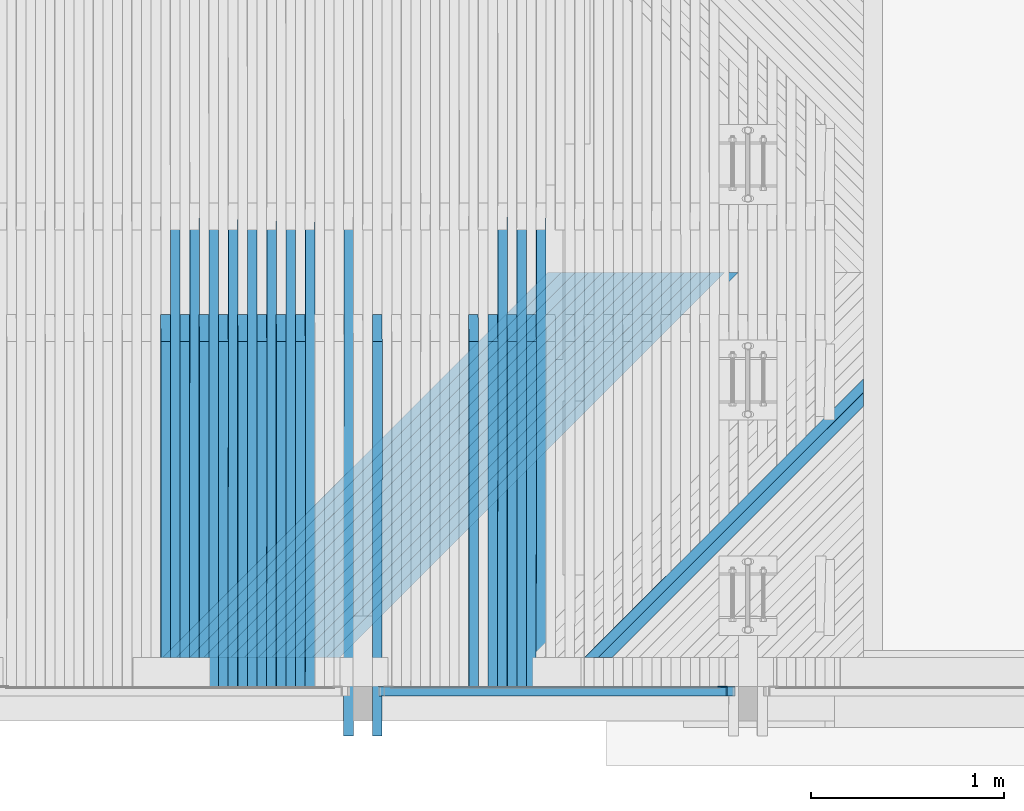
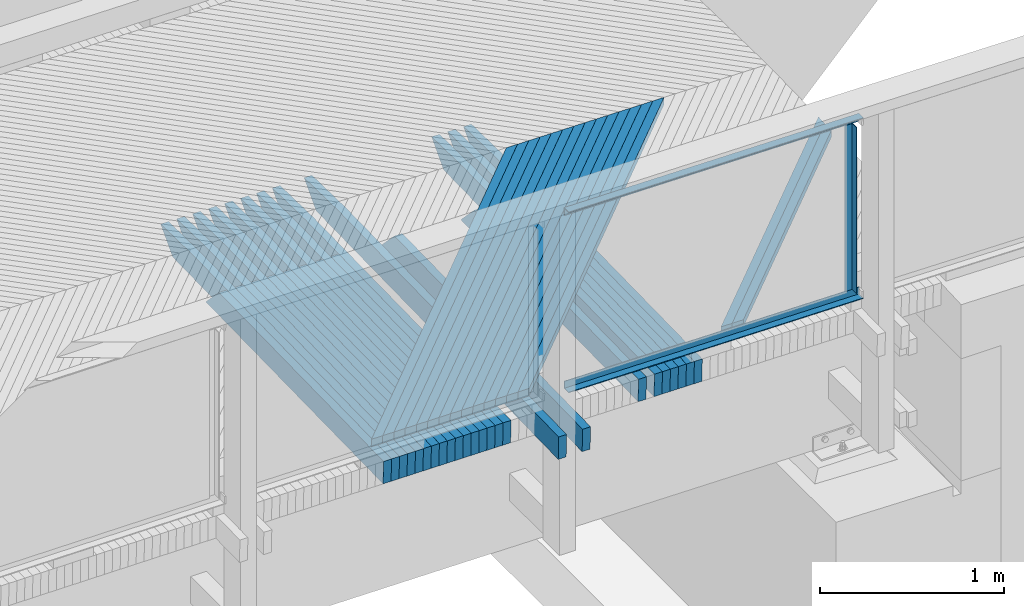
# One storey, part 41 of 65: 44 beams.
"""IFC2X3 building model written with IfcOpenShell, lengths in millimetres."""

import ifcopenshell
import ifcopenshell.guid

model = None  # the IFC model being written
_history = None  # IfcOwnerHistory: only IFC2X3 demands one
_inside = {}  # id of a spatial element -> (the spatial element, [elements in it])
_under = {}  # id of a project, library or spatial element -> (it, [spatial elements below it])
_declared = {}  # id of a project -> (the project, [libraries it declares])
_typed = {}  # id of a type object -> (the type object, [elements of that type])
_made_of = {}  # id of a material, layer set ... -> (it, [elements and type objects made of it])


def new_model(schema):
    """Start an empty IFC model of exactly this schema.

    Asked for "IFC4X3", IfcOpenShell would pick the latest addendum, in which some entities
    have other attributes; the version numbers below select the first issue.
    IFC2X3 requires an IfcOwnerHistory on every rooted entity: one is made here for all.
    """
    global model, _history
    if schema == "IFC4X3":
        model = ifcopenshell.file(schema_version=(4, 3, 0, 0))
    else:
        model = ifcopenshell.file(schema=schema)
    _inside.clear()
    _under.clear()
    _declared.clear()
    _typed.clear()
    _made_of.clear()
    _history = None
    if model.schema == "IFC2X3":
        org = make("IfcOrganization", Name="unknown")
        user = make(
            "IfcPersonAndOrganization",
            ThePerson=make("IfcPerson", FamilyName="unknown"),
            TheOrganization=org,
        )
        app = make(
            "IfcApplication",
            ApplicationDeveloper=org,
            Version="unknown",
            ApplicationFullName="unknown",
            ApplicationIdentifier="unknown",
        )
        _history = make(
            "IfcOwnerHistory",
            OwningUser=user,
            OwningApplication=app,
            ChangeAction="ADDED",
            CreationDate=0,
        )
    return model


def make(cls, **values):
    """One entity of the class cls with the attributes given. An attribute that is None is left unset."""
    return model.create_entity(
        cls, **{name: value for name, value in values.items() if value is not None}
    )


def rooted(cls, **values):
    """An entity with a GlobalId (a new one), such as an element, a storey or a relation."""
    return make(cls, GlobalId=ifcopenshell.guid.new(), OwnerHistory=_history, **values)


def si_unit(unit_type, name, prefix=None):
    """IfcSIUnit, for example si_unit("LENGTHUNIT", "METRE", prefix="MILLI")."""
    return make("IfcSIUnit", UnitType=unit_type, Prefix=prefix, Name=name)


def assignment(units):
    """IfcUnitAssignment: the units of a project."""
    return None if units is None else make("IfcUnitAssignment", Units=units)


def point(xyz):
    """IfcCartesianPoint."""
    return None if xyz is None else make("IfcCartesianPoint", Coordinates=xyz)


def direction(xyz):
    """IfcDirection."""
    return None if xyz is None else make("IfcDirection", DirectionRatios=xyz)


def frame(location, z_axis=None, x_axis=None):
    """IfcAxis2Placement3D, a coordinate frame: its origin and axes. An axis left out is left unset."""
    return make(
        "IfcAxis2Placement3D",
        Location=point(location),
        Axis=direction(z_axis),
        RefDirection=direction(x_axis),
    )


def origin_with_axes():
    """The frame at (0, 0, 0) with the z axis (0, 0, 1) and the x axis (1, 0, 0) written out."""
    return frame((0.0, 0.0, 0.0), z_axis=(0.0, 0.0, 1.0), x_axis=(1.0, 0.0, 0.0))


def place(relative_to, where):
    """IfcLocalPlacement: puts the frame where relative to a parent placement (None: the world)."""
    return make(
        "IfcLocalPlacement", PlacementRelTo=relative_to, RelativePlacement=where
    )


def context(
    kind, dimensions, precision=None, world=None, true_north=None, identifier=None
):
    """IfcGeometricRepresentationContext, for example the 3D "Model" context."""
    return make(
        "IfcGeometricRepresentationContext",
        ContextIdentifier=identifier,
        ContextType=kind,
        CoordinateSpaceDimension=dimensions,
        Precision=precision,
        WorldCoordinateSystem=world,
        TrueNorth=true_north,
    )


def subcontext(parent, identifier, kind, view, scale=None):
    """IfcGeometricRepresentationSubContext, for example "Body" below "Model"."""
    return make(
        "IfcGeometricRepresentationSubContext",
        ContextIdentifier=identifier,
        ContextType=kind,
        ParentContext=parent,
        TargetScale=scale,
        TargetView=view,
    )


def project(units=None, contexts=None):
    """IfcProject with its units and contexts."""
    return rooted(
        "IfcProject",
        Name="project",
        RepresentationContexts=contexts,
        UnitsInContext=assignment(units),
    )


def spatial(cls, under=None, at=None, **own):
    """A site, building, storey or space (cls), placed at a placement, below another one or the project."""
    s = rooted(cls, ObjectPlacement=at, **own)
    if under is not None:
        _under.setdefault(under.id(), (under, []))[1].append(s)
    return s


def faces_of(points, faces, orient=None, outer=None):
    """IfcFace entities. A face is a list of loops; a loop is a list of indices into points, from 0.

    orient and outer hold one flag for each loop. By default every Orientation is true, the
    first loop of a face is its IfcFaceOuterBound and the others are IfcFaceBound.
    """
    made = []
    for i, loops in enumerate(faces):
        bounds = []
        for j, loop in enumerate(loops):
            is_outer = j == 0 if outer is None else outer[i][j]
            bounds.append(
                make(
                    "IfcFaceOuterBound" if is_outer else "IfcFaceBound",
                    Bound=make("IfcPolyLoop", Polygon=[points[k] for k in loop]),
                    Orientation=True if orient is None else orient[i][j],
                )
            )
        made.append(make("IfcFace", Bounds=bounds))
    return made


def faceted_brep(points, faces, orient=None, outer=None, voids=None):
    """IfcFacetedBrep: a solid bounded by flat faces; with voids (closed shells), ...WithVoids."""
    shared = [point(p) for p in points]
    hull = make("IfcClosedShell", CfsFaces=faces_of(shared, faces, orient, outer))
    if voids is None:
        return make("IfcFacetedBrep", Outer=hull)
    return make(
        "IfcFacetedBrepWithVoids",
        Outer=hull,
        Voids=[
            make(cls, CfsFaces=faces_of(shared, fs, o, b)) for cls, fs, o, b in voids
        ],
    )


def shape(context_of_items, identifier, shape_type, items):
    """IfcShapeRepresentation: the items that make up one representation, for example the "Body"."""
    return make(
        "IfcShapeRepresentation",
        ContextOfItems=context_of_items,
        RepresentationIdentifier=identifier,
        RepresentationType=shape_type,
        Items=items,
    )


def material(Name=None, Category=None):
    """IfcMaterial."""
    return make("IfcMaterial", Name=Name, Category=Category)


def made_of(thing, what):
    """Note that an element or type object is made of a material, layer set ...; save() writes the relation."""
    if what is not None:
        _made_of.setdefault(what.id(), (what, []))[1].append(thing)
    return thing


def type_object(cls, material=None, **own):
    """A type object (cls), such as IfcWallType, which elements share."""
    return made_of(rooted(cls, **own), material)


def element(
    cls,
    number,
    at=None,
    inside=None,
    cuts=None,
    type_object=None,
    material=None,
    context=None,
    identifier="Body",
    shape_type=None,
    held_by="IfcProductDefinitionShape",
    body=None,
    shapes=None,
    **own,
):
    """One element of the class cls, such as IfcWall. Its Tag is "e" and its number.

    at: its placement. inside: the storey or other place that contains it. cuts: it is an
    opening in that element (IfcRelVoidsElement). A single representation is given by context,
    identifier, shape_type and body (its items); several are given by shapes. held_by: the class
    of the entity that holds the representations. save() writes the other relations.
    """
    e = rooted(cls, Tag="e%d" % number, ObjectPlacement=at, **own)
    if body is not None:
        shapes = [shape(context, identifier, shape_type, body)]
    if shapes is not None:
        e.Representation = make(held_by, Representations=shapes)
    if inside is not None:
        _inside.setdefault(inside.id(), (inside, []))[1].append(e)
    if cuts is not None:
        rooted(
            "IfcRelVoidsElement", RelatingBuildingElement=cuts, RelatedOpeningElement=e
        )
    if type_object is not None:
        _typed.setdefault(type_object.id(), (type_object, []))[1].append(e)
    return made_of(e, material)


def aggregate(whole, parts):
    """IfcRelAggregates: a whole, such as a stair, and the parts it consists of."""
    return rooted("IfcRelAggregates", RelatingObject=whole, RelatedObjects=parts)


def save(model, path):
    """Write the relations noted so far, then the file.

    IfcRelAggregates (storeys below a building ...), IfcRelContainedInSpatialStructure (elements
    in a storey), IfcRelDefinesByType, IfcRelAssociatesMaterial and IfcRelDeclares: one each for
    every whole, place, type object, material and project.
    """
    for whole, parts in _under.values():
        aggregate(whole, parts)
    for where, things in _inside.values():
        rooted(
            "IfcRelContainedInSpatialStructure",
            RelatedElements=things,
            RelatingStructure=where,
        )
    for kind, things in _typed.values():
        rooted("IfcRelDefinesByType", RelatedObjects=things, RelatingType=kind)
    for what, things in _made_of.values():
        rooted("IfcRelAssociatesMaterial", RelatedObjects=things, RelatingMaterial=what)
    for by, libraries in _declared.values():
        rooted("IfcRelDeclares", RelatingContext=by, RelatedDefinitions=libraries)
    model.write(path)


model = new_model("IFC2X3")

# Units and contexts
model_context = context("Model", 3, precision=1e-05, world=origin_with_axes())
body_context = subcontext(model_context, "Body", "Model", "MODEL_VIEW")
ifc_project = project(units=[si_unit("LENGTHUNIT", "METRE", prefix="MILLI"), si_unit("AREAUNIT", "SQUARE_METRE"), si_unit("VOLUMEUNIT", "CUBIC_METRE"), si_unit("MASSUNIT", "GRAM", prefix="KILO"), si_unit("TIMEUNIT", "SECOND"), si_unit("PLANEANGLEUNIT", "RADIAN"), si_unit("SOLIDANGLEUNIT", "STERADIAN"), si_unit("THERMODYNAMICTEMPERATUREUNIT", "DEGREE_CELSIUS"), si_unit("LUMINOUSINTENSITYUNIT", "LUMEN")], contexts=[model_context])

# Site, building, storey
site_placement = place(None, origin_with_axes())
site = spatial("IfcSite", under=ifc_project, at=site_placement, Name="Undefined", CompositionType="ELEMENT")
building_placement = place(site_placement, origin_with_axes())
building = spatial("IfcBuilding", under=site, at=building_placement, Name="Undefined", CompositionType="ELEMENT")
storey_placement = place(building_placement, origin_with_axes())
storey = spatial("IfcBuildingStorey", under=building, at=storey_placement, Name="Undefined", CompositionType="ELEMENT", Elevation=0.0)

# Beams
ifc_material_1 = material(Name="STEEL/S235JR")
beam_type_1 = type_object("IfcBeamType", Name="L50*5", PredefinedType="NOTDEFINED")
beam_1_placement = place(storey_placement, frame((15867.5024948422, 20190.01, 4364.61246804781), z_axis=(0.0, -1.0, 0.0), x_axis=(0.0, 0.0, -1.0)))
element("IfcBeam", 1, at=beam_1_placement, inside=storey, type_object=beam_type_1, material=ifc_material_1, Name="BEAM", ObjectType="L50*5", context=body_context, shape_type="Brep", body=[
    faceted_brep([(0.0, 25.0, -25.0), (0.0, 25.0, 25.0), (1099.99156352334, 25.0, 25.0), (1099.99156352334, 25.0, -25.0), (0.0, 20.0, 25.0), (1099.99156352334, 20.0, 25.0), (0.0, 20.0, -20.0), (1099.99156352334, 20.0, -20.0), (0.0, -25.0, -20.0), (1099.99156352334, -25.0, -20.0), (0.0, -25.0, -25.0), (1099.99156352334, -25.0, -25.0)], [[[0, 1, 2, 3]], [[1, 4, 5, 2]], [[4, 6, 7, 5]], [[6, 8, 9, 7]], [[8, 10, 11, 9]], [[10, 0, 3, 11]], [[5, 7, 9, 11, 3, 2]], [[10, 8, 6, 4, 1, 0]]]),
])
for number, where, z_axis, x_axis, name in (
    (2, (15932.2888724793, 20190.0100000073, 3239.15826347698), (0.0, -1.0, 0.0), (-0.999932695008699, 0.0, 0.0116019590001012), "BEAM"),
    (3, (14082.7114455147, 20190.0099999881, 4410.61201255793), (0.0, -1.0, 0.0), (0.999932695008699, 0.0, -0.011601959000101), "BEAM"),
):
    element("IfcBeam", number, at=place(storey_placement, frame(where, z_axis=z_axis, x_axis=x_axis)), inside=storey, type_object=beam_type_1, material=ifc_material_1, Name=name, ObjectType="L50*5", context=body_context, shape_type="Brep", body=[
        faceted_brep([(0.0, 25.0, -25.0), (0.0, 25.0, 25.0), (1849.12178416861, 25.0, 25.0), (1849.12178416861, 25.0, -25.0), (0.0, 20.0, 25.0), (1849.1217841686, 20.0, 25.0), (0.0, 20.0, -20.0), (1849.1217841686, 20.0, -20.0), (0.0, -25.0, -20.0), (1849.1217841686, -25.0, -20.0), (0.0, -25.0, -25.0), (1849.1217841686, -25.0, -25.0)], [[[0, 1, 2, 3]], [[1, 4, 5, 2]], [[4, 6, 7, 5]], [[6, 8, 9, 7]], [[8, 10, 11, 9]], [[10, 0, 3, 11]], [[5, 7, 9, 11, 3, 2]], [[10, 8, 6, 4, 1, 0]]]),
    ])
ifc_material_2 = material(Name="TIMBER/Timber_Undefined")
beam_type_2 = type_object("IfcBeamType", Name="50*50", PredefinedType="NOTDEFINED")
beam_2_placement = place(storey_placement, frame((17258.8677408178, 22364.5001003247, 3164.92933385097), z_axis=(0.706832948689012, -0.706981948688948, -0.0237425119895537), x_axis=(-0.707250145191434, -0.706948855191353, -0.00453302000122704)))
element("IfcBeam", 4, at=beam_2_placement, inside=storey, type_object=beam_type_2, material=ifc_material_2, Name="BEAM", ObjectType="50*50", context=body_context, shape_type="Brep", body=[
    faceted_brep([(2802.92643296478, -25.0, 25.0000000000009), (2852.92877373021, -25.0000000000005, -24.9999999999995), (2854.34301907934, 24.9999999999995, -25.0), (2804.3406783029, 25.0, 25.0000000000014), (906.12553705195, 25.0, -24.9999999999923), (956.096042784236, 25.0, 25.0000000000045), (957.056097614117, -24.9999999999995, 25.0000000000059), (907.085591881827, -24.9999999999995, -24.9999999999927)], [[[0, 1, 2, 3]], [[3, 2, 4, 5]], [[0, 3, 5, 6]], [[1, 0, 6, 7]], [[2, 1, 7, 4]], [[6, 5, 4, 7]]]),
])
beam_3_placement = place(storey_placement, frame((17188.1518059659, 22364.5001003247, 3166.01273338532), z_axis=(0.706835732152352, -0.706981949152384, -0.0236594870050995), x_axis=(-0.707249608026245, -0.706948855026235, -0.00461609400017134)))
element("IfcBeam", 5, at=beam_3_placement, inside=storey, type_object=beam_type_2, material=ifc_material_2, Name="BEAM", ObjectType="50*50", context=body_context, shape_type="Brep", body=[
    faceted_brep([(2802.92643296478, -25.0, 25.0000000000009), (2852.92877373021, -25.0000000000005, -24.9999999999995), (2854.34301907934, 24.9999999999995, -25.0), (2804.3406783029, 25.0, 25.0000000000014), (806.143039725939, 24.9999999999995, -24.9999999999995), (856.1137801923, 24.9999999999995, 25.0), (857.065534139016, -25.0, 25.0), (807.094793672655, -25.0, -25.0)], [[[0, 1, 2, 3]], [[3, 2, 4, 5]], [[0, 3, 5, 6]], [[1, 0, 6, 7]], [[2, 1, 7, 4]], [[6, 5, 4, 7]]]),
])
for number, where, z_axis, x_axis, name in (
    (6, (15915.2442465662, 22364.5001003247, 3184.09352561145), (0.706884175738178, -0.706981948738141, -0.0221649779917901), (-0.707238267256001, -0.706948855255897, -0.00611141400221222), "BEAM"),
    (7, (15844.5260699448, 22364.5001003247, 3185.01910211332), (0.706886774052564, -0.706981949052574, -0.0220819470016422), (-0.707237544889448, -0.706948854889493, -0.00619448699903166), "BEAM"),
    (8, (15773.8077850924, 22364.5001003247, 3185.93637200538), (0.706889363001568, -0.70698194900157, -0.021998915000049), (-0.707236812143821, -0.706948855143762, -0.00627756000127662), "BEAM"),
    (9, (15703.0893929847, 22364.5001003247, 3186.8453352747), (0.70689194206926, -0.706981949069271, -0.0219158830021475), (-0.707236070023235, -0.706948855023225, -0.00636063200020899), "BEAM"),
    (10, (15632.3708945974, 22364.5001003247, 3187.74599190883), (0.706894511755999, -0.706981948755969, -0.021832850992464), (-0.707235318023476, -0.706948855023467, -0.00644370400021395), "BEAM"),
    (11, (15561.6522909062, 22364.5001003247, 3188.6383418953), (0.706897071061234, -0.706981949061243, -0.0217498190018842), (-0.707234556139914, -0.706948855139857, -0.00652677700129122), "BEAM"),
    (12, (15490.9335828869, 22364.5001003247, 3189.52238522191), (0.706899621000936, -0.706981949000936, -0.0216667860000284), (-0.707233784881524, -0.706948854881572, -0.00660984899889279), "BEAM"),
    (13, (15420.2147715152, 22364.5001003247, 3190.39812187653), (0.706902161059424, -0.706981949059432, -0.0215837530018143), (-0.707233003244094, -0.706948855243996, -0.00669292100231), "BEAM"),
    (14, (15349.4958577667, 22364.5001003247, 3191.26555184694), (0.706904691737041, -0.706981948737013, -0.021500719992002), (-0.707232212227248, -0.706948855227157, -0.00677599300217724), "BEAM"),
    (15, (15278.7768426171, 22364.5001003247, 3192.12467512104), (0.706907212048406, -0.706981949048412, -0.0214176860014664), (-0.707231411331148, -0.706948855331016, -0.0068590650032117), "BEAM"),
    (16, (15208.0577270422, 22364.5001003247, 3192.97549168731), (0.706909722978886, -0.706981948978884, -0.0213346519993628), (-0.707230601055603, -0.706948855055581, -0.00694213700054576), "BEAM"),
    (17, (15137.3385120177, 22364.5001003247, 3193.81800153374), (0.706912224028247, -0.706981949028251, -0.021251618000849), (-0.70722978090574, -0.706948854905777, -0.00702520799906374), "BEAM"),
    (18, (15066.6191985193, 22364.5001003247, 3194.65220464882), (0.706914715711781, -0.706981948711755, -0.0211685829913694), (-0.707228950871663, -0.706948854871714, -0.00710827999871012), "BEAM"),
    (19, (14995.8997875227, 22364.5001003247, 3195.47810102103), (0.706917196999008, -0.706981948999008, -0.0210855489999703), (-0.707228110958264, -0.706948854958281, -0.00719135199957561), "BEAM"),
):
    element("IfcBeam", number, at=place(storey_placement, frame(where, z_axis=z_axis, x_axis=x_axis)), inside=storey, type_object=beam_type_2, material=ifc_material_2, Name=name, ObjectType="50*50", context=body_context, shape_type="Brep", body=[
        faceted_brep([(24.8942457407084, 25.0000000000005, -25.0000000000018), (-25.0086637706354, 24.9999999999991, 25.0), (2804.3406783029, 25.0, 25.0000000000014), (2854.34301907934, 24.9999999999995, -25.0), (-26.4222658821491, -25.0000000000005, 25.0), (2802.92643296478, -25.0, 25.0000000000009), (23.4806436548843, -24.9999999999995, -25.0000000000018), (2852.92877373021, -25.0000000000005, -24.9999999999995)], [[[0, 1, 2, 3]], [[1, 4, 5, 2]], [[4, 6, 7, 5]], [[6, 0, 3, 7]], [[5, 7, 3, 2]], [[6, 4, 1, 0]]]),
    ])
beam_type_3 = type_object("IfcBeamType", Name="150*50", PredefinedType="NOTDEFINED")
beam_4_placement = place(storey_placement, frame((14874.6038632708, 20216.5046076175, 3053.88204159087), z_axis=(0.0113405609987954, -0.0199960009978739, 0.999735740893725), x_axis=(0.000226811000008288, 0.999800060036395, 0.0199947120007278)))
element("IfcBeam", 20, at=beam_4_placement, inside=storey, type_object=beam_type_3, material=ifc_material_2, Name="BEAM", ObjectType="150*50", context=body_context, shape_type="Brep", body=[
    faceted_brep([(-1.6778358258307e-07, -24.9999999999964, -74.9999999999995), (1.67790858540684e-07, -24.9999999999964, 75.0000000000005), (1.67790858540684e-07, 25.0000000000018, 74.9999999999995), (-1.6778358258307e-07, 25.0000000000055, -75.0), (1789.96936433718, -25.0000000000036, 74.9999999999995), (1789.96936408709, 24.9999999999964, 75.0), (1928.42646328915, 24.9999999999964, -75.0), (1928.42646353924, -25.0, -75.0000000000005)], [[[0, 1, 2, 3]], [[2, 1, 4, 5]], [[3, 2, 5, 6]], [[0, 3, 6, 7]], [[1, 0, 7, 4]], [[6, 5, 4, 7]]]),
])
beam_5_placement = place(storey_placement, frame((14924.6205833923, 20216.5046076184, 3053.30636416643), z_axis=(0.0115066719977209, -0.0199960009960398, 0.999733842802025), x_axis=(0.00023013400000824, 0.999800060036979, 0.0199946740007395)))
element("IfcBeam", 21, at=beam_5_placement, inside=storey, type_object=beam_type_3, material=ifc_material_2, Name="BEAM", ObjectType="150*50", context=body_context, shape_type="Brep", body=[
    faceted_brep([(-1.6778358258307e-07, -24.9999999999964, -74.9999999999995), (1.67790858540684e-07, -24.9999999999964, 75.0000000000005), (1.67790858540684e-07, 25.0000000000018, 74.9999999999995), (-1.6778358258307e-07, 25.0000000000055, -75.0), (2375.00494422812, 25.0000000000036, -75.0), (2375.00494447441, -24.9999999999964, -74.9999999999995), (2510.59248714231, -24.9999999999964, 60.5875430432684), (2150.42514405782, -24.9999999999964, 75.0000000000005), (2150.42515052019, 25.0000000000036, 74.9999999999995), (2510.59248715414, 25.0000000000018, 60.5875433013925)], [[[0, 1, 2, 3]], [[0, 3, 4, 5]], [[1, 0, 5, 6, 7]], [[2, 1, 7, 8]], [[4, 3, 2, 8, 9]], [[5, 4, 9, 6]], [[6, 9, 8, 7]]]),
])
beam_6_placement = place(storey_placement, frame((14774.590259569, 20216.5046076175, 3055.01598487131), z_axis=(0.0111744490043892, -0.0199960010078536, 0.99973761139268), x_axis=(0.000223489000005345, 0.999800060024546, 0.0199947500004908)))
element("IfcBeam", 22, at=beam_6_placement, inside=storey, type_object=beam_type_3, material=ifc_material_2, Name="BEAM", ObjectType="150*50", context=body_context, shape_type="Brep", body=[
    faceted_brep([(-1.6778358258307e-07, -24.9999999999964, -74.9999999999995), (1.67790858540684e-07, -24.9999999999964, 75.0000000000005), (1.67790858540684e-07, 25.0000000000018, 74.9999999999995), (-1.6778358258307e-07, 25.0000000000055, -75.0), (1789.96936433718, -25.0000000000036, 74.9999999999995), (1789.96936408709, 24.9999999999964, 75.0), (1928.42646328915, 24.9999999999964, -75.0), (1928.42646353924, -25.0, -75.0000000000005)], [[[0, 1, 2, 3]], [[2, 1, 4, 5]], [[3, 2, 5, 6]], [[0, 3, 6, 7]], [[1, 0, 7, 4]], [[6, 5, 4, 7]]]),
])
beam_7_placement = place(storey_placement, frame((14824.6070746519, 20216.5046076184, 3054.44861800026), z_axis=(0.0113405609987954, -0.0199960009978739, 0.999735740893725), x_axis=(0.000226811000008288, 0.999800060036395, 0.0199947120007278)))
element("IfcBeam", 23, at=beam_7_placement, inside=storey, type_object=beam_type_3, material=ifc_material_2, Name="BEAM", ObjectType="150*50", context=body_context, shape_type="Brep", body=[
    faceted_brep([(-1.6778358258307e-07, -24.9999999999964, -74.9999999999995), (1.67790858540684e-07, -24.9999999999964, 75.0000000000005), (1.67790858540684e-07, 25.0000000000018, 74.9999999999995), (-1.6778358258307e-07, 25.0000000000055, -75.0), (2375.00494422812, 25.0000000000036, -75.0), (2375.00494447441, -24.9999999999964, -74.9999999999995), (2510.59248714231, -24.9999999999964, 60.5875430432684), (2150.42514405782, -24.9999999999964, 75.0000000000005), (2150.42515052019, 25.0000000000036, 74.9999999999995), (2510.59248715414, 25.0000000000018, 60.5875433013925)], [[[0, 1, 2, 3]], [[0, 3, 4, 5]], [[1, 0, 5, 6, 7]], [[2, 1, 7, 8]], [[4, 3, 2, 8, 9]], [[5, 4, 9, 6]], [[6, 9, 8, 7]]]),
])
beam_8_placement = place(storey_placement, frame((14674.576468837, 20216.5046076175, 3056.13331034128), z_axis=(0.0110083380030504, -0.0199960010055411, 0.999739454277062), x_axis=(0.000220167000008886, 0.999800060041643, 0.0199947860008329)))
element("IfcBeam", 24, at=beam_8_placement, inside=storey, type_object=beam_type_3, material=ifc_material_2, Name="BEAM", ObjectType="150*50", context=body_context, shape_type="Brep", body=[
    faceted_brep([(-1.6778358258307e-07, -24.9999999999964, -74.9999999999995), (1.67790858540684e-07, -24.9999999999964, 75.0000000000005), (1.67790858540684e-07, 25.0000000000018, 74.9999999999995), (-1.6778358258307e-07, 25.0000000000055, -75.0), (1789.96936433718, -25.0000000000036, 74.9999999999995), (1789.96936408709, 24.9999999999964, 75.0), (1928.42646328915, 24.9999999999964, -75.0), (1928.42646353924, -25.0, -75.0000000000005)], [[[0, 1, 2, 3]], [[2, 1, 4, 5]], [[3, 2, 5, 6]], [[0, 3, 6, 7]], [[1, 0, 7, 4]], [[6, 5, 4, 7]]]),
])
beam_9_placement = place(storey_placement, frame((14724.5933775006, 20216.5046076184, 3055.57425403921), z_axis=(0.0111744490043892, -0.0199960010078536, 0.99973761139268), x_axis=(0.000223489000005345, 0.999800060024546, 0.0199947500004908)))
element("IfcBeam", 25, at=beam_9_placement, inside=storey, type_object=beam_type_3, material=ifc_material_2, Name="BEAM", ObjectType="150*50", context=body_context, shape_type="Brep", body=[
    faceted_brep([(-1.6778358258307e-07, -24.9999999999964, -74.9999999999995), (1.67790858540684e-07, -24.9999999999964, 75.0000000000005), (1.67790858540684e-07, 25.0000000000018, 74.9999999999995), (-1.6778358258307e-07, 25.0000000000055, -75.0), (2375.00494422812, 25.0000000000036, -75.0), (2375.00494447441, -24.9999999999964, -74.9999999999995), (2510.59248714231, -24.9999999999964, 60.5875430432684), (2150.42514405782, -24.9999999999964, 75.0000000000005), (2150.42515052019, 25.0000000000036, 74.9999999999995), (2510.59248715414, 25.0000000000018, 60.5875433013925)], [[[0, 1, 2, 3]], [[0, 3, 4, 5]], [[1, 0, 5, 6, 7]], [[2, 1, 7, 8]], [[4, 3, 2, 8, 9]], [[5, 4, 9, 6]], [[6, 9, 8, 7]]]),
])
for number, where, z_axis, x_axis, name in (
    (26, (14574.562493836, 20216.5046076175, 3057.23401797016), (0.0108422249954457, -0.0199960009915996, 0.999741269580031), (0.000216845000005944, 0.999800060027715, 0.0199948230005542), "BEAM"),
    (27, (13675.0288822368, 20216.5046076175, 3066.39287799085), (0.00934720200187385, -0.0199960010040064, 0.999756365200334), (0.000186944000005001, 0.999800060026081, 0.0199951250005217), "BEAM"),
):
    element("IfcBeam", number, at=place(storey_placement, frame(where, z_axis=z_axis, x_axis=x_axis)), inside=storey, type_object=beam_type_3, material=ifc_material_2, Name=name, ObjectType="150*50", context=body_context, shape_type="Brep", body=[
        faceted_brep([(-1.6778358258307e-07, -24.9999999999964, -74.9999999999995), (1.67790858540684e-07, -24.9999999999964, 75.0000000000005), (1.67790858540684e-07, 25.0000000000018, 74.9999999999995), (-1.6778358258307e-07, 25.0000000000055, -75.0), (1789.96936433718, -25.0000000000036, 74.9999999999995), (1789.96936408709, 24.9999999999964, 75.0), (1928.42646328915, 24.9999999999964, -75.0), (1928.42646353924, -25.0, -75.0000000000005)], [[[0, 1, 2, 3]], [[2, 1, 4, 5]], [[3, 2, 5, 6]], [[0, 3, 6, 7]], [[1, 0, 7, 4]], [[6, 5, 4, 7]]]),
    ])
beam_10_placement = place(storey_placement, frame((13725.0466507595, 20216.5046076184, 3065.91692818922), z_axis=(0.00951331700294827, -0.0199960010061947, 0.999754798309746), x_axis=(0.000190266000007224, 0.999800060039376, 0.0199950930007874)))
element("IfcBeam", 28, at=beam_10_placement, inside=storey, type_object=beam_type_3, material=ifc_material_2, Name="BEAM", ObjectType="150*50", context=body_context, shape_type="Brep", body=[
    faceted_brep([(-1.6778358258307e-07, -24.9999999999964, -74.9999999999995), (1.67790858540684e-07, -24.9999999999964, 75.0000000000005), (1.67790858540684e-07, 25.0000000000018, 74.9999999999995), (-1.6778358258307e-07, 25.0000000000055, -75.0), (2375.00494422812, 25.0000000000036, -75.0), (2375.00494447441, -24.9999999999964, -74.9999999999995), (2510.59248714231, -24.9999999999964, 60.5875430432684), (2150.42514405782, -24.9999999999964, 75.0000000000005), (2150.42515052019, 25.0000000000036, 74.9999999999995), (2510.59248715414, 25.0000000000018, 60.5875433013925)], [[[0, 1, 2, 3]], [[0, 3, 4, 5]], [[1, 0, 5, 6, 7]], [[2, 1, 7, 8]], [[4, 3, 2, 8, 9]], [[5, 4, 9, 6]], [[6, 9, 8, 7]]]),
])
beam_11_placement = place(storey_placement, frame((13575.0132163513, 20216.5046076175, 3067.32750530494), z_axis=(0.00918108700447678, -0.0199960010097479, 0.999757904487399), x_axis=(0.000183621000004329, 0.999800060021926, 0.0199951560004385)))
element("IfcBeam", 29, at=beam_11_placement, inside=storey, type_object=beam_type_3, material=ifc_material_2, Name="BEAM", ObjectType="150*50", context=body_context, shape_type="Brep", body=[
    faceted_brep([(-1.6778358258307e-07, -24.9999999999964, -74.9999999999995), (1.67790858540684e-07, -24.9999999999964, 75.0000000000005), (1.67790858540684e-07, 25.0000000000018, 74.9999999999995), (-1.6778358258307e-07, 25.0000000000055, -75.0), (1789.96936433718, -25.0000000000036, 74.9999999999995), (1789.96936408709, 24.9999999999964, 75.0), (1928.42646328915, 24.9999999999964, -75.0), (1928.42646353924, -25.0, -75.0000000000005)], [[[0, 1, 2, 3]], [[2, 1, 4, 5]], [[3, 2, 5, 6]], [[0, 3, 6, 7]], [[1, 0, 7, 4]], [[6, 5, 4, 7]]]),
])
beam_12_placement = place(storey_placement, frame((13625.0310632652, 20216.5046076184, 3066.85986622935), z_axis=(0.00934720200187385, -0.0199960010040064, 0.999756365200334), x_axis=(0.000186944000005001, 0.999800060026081, 0.0199951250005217)))
element("IfcBeam", 30, at=beam_12_placement, inside=storey, type_object=beam_type_3, material=ifc_material_2, Name="BEAM", ObjectType="150*50", context=body_context, shape_type="Brep", body=[
    faceted_brep([(-1.6778358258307e-07, -24.9999999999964, -74.9999999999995), (1.67790858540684e-07, -24.9999999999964, 75.0000000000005), (1.67790858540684e-07, 25.0000000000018, 74.9999999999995), (-1.6778358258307e-07, 25.0000000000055, -75.0), (2375.00494422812, 25.0000000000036, -75.0), (2375.00494447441, -24.9999999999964, -74.9999999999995), (2510.59248714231, -24.9999999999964, 60.5875430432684), (2150.42514405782, -24.9999999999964, 75.0000000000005), (2150.42515052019, 25.0000000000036, 74.9999999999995), (2510.59248715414, 25.0000000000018, 60.5875433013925)], [[[0, 1, 2, 3]], [[0, 3, 4, 5]], [[1, 0, 5, 6, 7]], [[2, 1, 7, 8]], [[4, 3, 2, 8, 9]], [[5, 4, 9, 6]], [[6, 9, 8, 7]]]),
])
beam_13_placement = place(storey_placement, frame((13474.9973965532, 20216.5046076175, 3068.24551446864), z_axis=(0.00901497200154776, -0.0199960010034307, 0.999759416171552), x_axis=(0.000180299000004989, 0.999800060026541, 0.0199951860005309)))
element("IfcBeam", 31, at=beam_13_placement, inside=storey, type_object=beam_type_3, material=ifc_material_2, Name="BEAM", ObjectType="150*50", context=body_context, shape_type="Brep", body=[
    faceted_brep([(-1.6778358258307e-07, -24.9999999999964, -74.9999999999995), (1.67790858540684e-07, -24.9999999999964, 75.0000000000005), (1.67790858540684e-07, 25.0000000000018, 74.9999999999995), (-1.6778358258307e-07, 25.0000000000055, -75.0), (1789.96936433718, -25.0000000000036, 74.9999999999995), (1789.96936408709, 24.9999999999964, 75.0), (1928.42646328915, 24.9999999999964, -75.0), (1928.42646353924, -25.0, -75.0000000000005)], [[[0, 1, 2, 3]], [[2, 1, 4, 5]], [[3, 2, 5, 6]], [[0, 3, 6, 7]], [[1, 0, 7, 4]], [[6, 5, 4, 7]]]),
])
beam_14_placement = place(storey_placement, frame((13525.0153204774, 20216.5046076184, 3067.78618613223), z_axis=(0.00918108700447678, -0.0199960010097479, 0.999757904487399), x_axis=(0.000183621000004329, 0.999800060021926, 0.0199951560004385)))
element("IfcBeam", 32, at=beam_14_placement, inside=storey, type_object=beam_type_3, material=ifc_material_2, Name="BEAM", ObjectType="150*50", context=body_context, shape_type="Brep", body=[
    faceted_brep([(-1.6778358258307e-07, -24.9999999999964, -74.9999999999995), (1.67790858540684e-07, -24.9999999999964, 75.0000000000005), (1.67790858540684e-07, 25.0000000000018, 74.9999999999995), (-1.6778358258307e-07, 25.0000000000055, -75.0), (2375.00494422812, 25.0000000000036, -75.0), (2375.00494447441, -24.9999999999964, -74.9999999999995), (2510.59248714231, -24.9999999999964, 60.5875430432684), (2150.42514405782, -24.9999999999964, 75.0000000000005), (2150.42515052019, 25.0000000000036, 74.9999999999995), (2510.59248715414, 25.0000000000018, 60.5875433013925)], [[[0, 1, 2, 3]], [[0, 3, 4, 5]], [[1, 0, 5, 6, 7]], [[2, 1, 7, 8]], [[4, 3, 2, 8, 9]], [[5, 4, 9, 6]], [[6, 9, 8, 7]]]),
])
beam_15_placement = place(storey_placement, frame((13374.9814256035, 20216.5046076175, 3069.1469054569), z_axis=(0.00884885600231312, -0.0199960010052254, 0.999760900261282), x_axis=(0.000176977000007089, 0.999800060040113, 0.0199952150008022)))
element("IfcBeam", 33, at=beam_15_placement, inside=storey, type_object=beam_type_3, material=ifc_material_2, Name="BEAM", ObjectType="150*50", context=body_context, shape_type="Brep", body=[
    faceted_brep([(-1.6778358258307e-07, -24.9999999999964, -74.9999999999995), (1.67790858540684e-07, -24.9999999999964, 75.0000000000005), (1.67790858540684e-07, 25.0000000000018, 74.9999999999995), (-1.6778358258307e-07, 25.0000000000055, -75.0), (1789.96936433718, -25.0000000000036, 74.9999999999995), (1789.96936408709, 24.9999999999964, 75.0), (1928.42646328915, 24.9999999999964, -75.0), (1928.42646353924, -25.0, -75.0000000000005)], [[[0, 1, 2, 3]], [[2, 1, 4, 5]], [[3, 2, 5, 6]], [[0, 3, 6, 7]], [[1, 0, 7, 4]], [[6, 5, 4, 7]]]),
])
beam_16_placement = place(storey_placement, frame((13424.9994251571, 20216.5046076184, 3068.69588787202), z_axis=(0.00901497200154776, -0.0199960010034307, 0.999759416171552), x_axis=(0.000180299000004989, 0.999800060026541, 0.0199951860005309)))
element("IfcBeam", 34, at=beam_16_placement, inside=storey, type_object=beam_type_3, material=ifc_material_2, Name="BEAM", ObjectType="150*50", context=body_context, shape_type="Brep", body=[
    faceted_brep([(-1.6778358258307e-07, -24.9999999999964, -74.9999999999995), (1.67790858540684e-07, -24.9999999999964, 75.0000000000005), (1.67790858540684e-07, 25.0000000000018, 74.9999999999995), (-1.6778358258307e-07, 25.0000000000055, -75.0), (2375.00494422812, 25.0000000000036, -75.0), (2375.00494447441, -24.9999999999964, -74.9999999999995), (2510.59248714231, -24.9999999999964, 60.5875430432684), (2150.42514405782, -24.9999999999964, 75.0000000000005), (2150.42515052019, 25.0000000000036, 74.9999999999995), (2510.59248715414, 25.0000000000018, 60.5875433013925)], [[[0, 1, 2, 3]], [[0, 3, 4, 5]], [[1, 0, 5, 6, 7]], [[2, 1, 7, 8]], [[4, 3, 2, 8, 9]], [[5, 4, 9, 6]], [[6, 9, 8, 7]]]),
])
beam_17_placement = place(storey_placement, frame((13274.9653062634, 20216.5046076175, 3070.03167824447), z_axis=(0.00868274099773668, -0.019996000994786, 0.999762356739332), x_axis=(0.000173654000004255, 0.999800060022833, 0.0199952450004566)))
element("IfcBeam", 35, at=beam_17_placement, inside=storey, type_object=beam_type_3, material=ifc_material_2, Name="BEAM", ObjectType="150*50", context=body_context, shape_type="Brep", body=[
    faceted_brep([(-1.6778358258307e-07, -24.9999999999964, -74.9999999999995), (1.67790858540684e-07, -24.9999999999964, 75.0000000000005), (1.67790858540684e-07, 25.0000000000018, 74.9999999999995), (-1.6778358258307e-07, 25.0000000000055, -75.0), (1789.96936433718, -25.0000000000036, 74.9999999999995), (1789.96936408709, 24.9999999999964, 75.0), (1928.42646328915, 24.9999999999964, -75.0), (1928.42646353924, -25.0, -75.0000000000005)], [[[0, 1, 2, 3]], [[2, 1, 4, 5]], [[3, 2, 5, 6]], [[0, 3, 6, 7]], [[1, 0, 7, 4]], [[6, 5, 4, 7]]]),
])
beam_18_placement = place(storey_placement, frame((13324.9833800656, 20216.5046076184, 3069.5889714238), z_axis=(0.00884885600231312, -0.0199960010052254, 0.999760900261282), x_axis=(0.000176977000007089, 0.999800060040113, 0.0199952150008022)))
element("IfcBeam", 36, at=beam_18_placement, inside=storey, type_object=beam_type_3, material=ifc_material_2, Name="BEAM", ObjectType="150*50", context=body_context, shape_type="Brep", body=[
    faceted_brep([(-1.6778358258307e-07, -24.9999999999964, -74.9999999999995), (1.67790858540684e-07, -24.9999999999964, 75.0000000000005), (1.67790858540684e-07, 25.0000000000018, 74.9999999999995), (-1.6778358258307e-07, 25.0000000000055, -75.0), (2375.00494422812, 25.0000000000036, -75.0), (2375.00494447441, -24.9999999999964, -74.9999999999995), (2510.59248714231, -24.9999999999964, 60.5875430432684), (2150.42514405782, -24.9999999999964, 75.0000000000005), (2150.42515052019, 25.0000000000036, 74.9999999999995), (2510.59248715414, 25.0000000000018, 60.5875433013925)], [[[0, 1, 2, 3]], [[0, 3, 4, 5]], [[1, 0, 5, 6, 7]], [[2, 1, 7, 8]], [[4, 3, 2, 8, 9]], [[5, 4, 9, 6]], [[6, 9, 8, 7]]]),
])
beam_19_placement = place(storey_placement, frame((13174.9490412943, 20216.5046076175, 3070.89983280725), z_axis=(0.00851662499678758, -0.0199960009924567, 0.999763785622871), x_axis=(0.000170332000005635, 0.999800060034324, 0.0199952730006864)))
element("IfcBeam", 37, at=beam_19_placement, inside=storey, type_object=beam_type_3, material=ifc_material_2, Name="BEAM", ObjectType="150*50", context=body_context, shape_type="Brep", body=[
    faceted_brep([(-1.6778358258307e-07, -24.9999999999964, -74.9999999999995), (1.67790858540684e-07, -24.9999999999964, 75.0000000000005), (1.67790858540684e-07, 25.0000000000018, 74.9999999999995), (-1.6778358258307e-07, 25.0000000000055, -75.0), (1789.96936433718, -25.0000000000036, 74.9999999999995), (1789.96936408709, 24.9999999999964, 75.0), (1928.42646328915, 24.9999999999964, -75.0), (1928.42646353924, -25.0, -75.0000000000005)], [[[0, 1, 2, 3]], [[2, 1, 4, 5]], [[3, 2, 5, 6]], [[0, 3, 6, 7]], [[1, 0, 7, 4]], [[6, 5, 4, 7]]]),
])
beam_20_placement = place(storey_placement, frame((13224.9671879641, 20216.5046076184, 3070.4654367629), z_axis=(0.00868274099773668, -0.019996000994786, 0.999762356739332), x_axis=(0.000173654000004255, 0.999800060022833, 0.0199952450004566)))
element("IfcBeam", 38, at=beam_20_placement, inside=storey, type_object=beam_type_3, material=ifc_material_2, Name="BEAM", ObjectType="150*50", context=body_context, shape_type="Brep", body=[
    faceted_brep([(-1.6778358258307e-07, -24.9999999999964, -74.9999999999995), (1.67790858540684e-07, -24.9999999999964, 75.0000000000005), (1.67790858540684e-07, 25.0000000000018, 74.9999999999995), (-1.6778358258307e-07, 25.0000000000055, -75.0), (2375.00494422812, 25.0000000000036, -75.0), (2375.00494447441, -24.9999999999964, -74.9999999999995), (2510.59248714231, -24.9999999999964, 60.5875430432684), (2150.42514405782, -24.9999999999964, 75.0000000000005), (2150.42515052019, 25.0000000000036, 74.9999999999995), (2510.59248715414, 25.0000000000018, 60.5875433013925)], [[[0, 1, 2, 3]], [[0, 3, 4, 5]], [[1, 0, 5, 6, 7]], [[2, 1, 7, 8]], [[4, 3, 2, 8, 9]], [[5, 4, 9, 6]], [[6, 9, 8, 7]]]),
])
beam_21_placement = place(storey_placement, frame((13074.9326334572, 20216.5046076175, 3071.75136912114), z_axis=(0.00835050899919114, -0.019996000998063, 0.999765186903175), x_axis=(0.000167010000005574, 0.999800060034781, 0.0199953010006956)))
element("IfcBeam", 39, at=beam_21_placement, inside=storey, type_object=beam_type_3, material=ifc_material_2, Name="BEAM", ObjectType="150*50", context=body_context, shape_type="Brep", body=[
    faceted_brep([(-1.6778358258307e-07, -24.9999999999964, -74.9999999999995), (1.67790858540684e-07, -24.9999999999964, 75.0000000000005), (1.67790858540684e-07, 25.0000000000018, 74.9999999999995), (-1.6778358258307e-07, 25.0000000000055, -75.0), (1789.96936433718, -25.0000000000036, 74.9999999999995), (1789.96936408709, 24.9999999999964, 75.0), (1928.42646328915, 24.9999999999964, -75.0), (1928.42646353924, -25.0, -75.0000000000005)], [[[0, 1, 2, 3]], [[2, 1, 4, 5]], [[3, 2, 5, 6]], [[0, 3, 6, 7]], [[1, 0, 7, 4]], [[6, 5, 4, 7]]]),
])
beam_22_placement = place(storey_placement, frame((13124.9508516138, 20216.5046076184, 3071.32528386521), z_axis=(0.00851662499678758, -0.0199960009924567, 0.999763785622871), x_axis=(0.000170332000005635, 0.999800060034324, 0.0199952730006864)))
element("IfcBeam", 40, at=beam_22_placement, inside=storey, type_object=beam_type_3, material=ifc_material_2, Name="BEAM", ObjectType="150*50", context=body_context, shape_type="Brep", body=[
    faceted_brep([(-1.6778358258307e-07, -24.9999999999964, -74.9999999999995), (1.67790858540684e-07, -24.9999999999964, 75.0000000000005), (1.67790858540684e-07, 25.0000000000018, 74.9999999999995), (-1.6778358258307e-07, 25.0000000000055, -75.0), (2375.00494422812, 25.0000000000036, -75.0), (2375.00494447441, -24.9999999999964, -74.9999999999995), (2510.59248714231, -24.9999999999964, 60.5875430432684), (2150.42514405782, -24.9999999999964, 75.0000000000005), (2150.42515052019, 25.0000000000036, 74.9999999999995), (2510.59248715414, 25.0000000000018, 60.5875433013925)], [[[0, 1, 2, 3]], [[0, 3, 4, 5]], [[1, 0, 5, 6, 7]], [[2, 1, 7, 8]], [[4, 3, 2, 8, 9]], [[5, 4, 9, 6]], [[6, 9, 8, 7]]]),
])
beam_23_placement = place(storey_placement, frame((12974.9160855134, 20216.5046076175, 3072.5862871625), z_axis=(0.00818439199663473, -0.0199960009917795, 0.999766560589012), x_axis=(0.000163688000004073, 0.999800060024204, 0.019995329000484)))
element("IfcBeam", 41, at=beam_23_placement, inside=storey, type_object=beam_type_3, material=ifc_material_2, Name="BEAM", ObjectType="150*50", context=body_context, shape_type="Brep", body=[
    faceted_brep([(-1.6778358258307e-07, -24.9999999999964, -74.9999999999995), (1.67790858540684e-07, -24.9999999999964, 75.0000000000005), (1.67790858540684e-07, 25.0000000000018, 74.9999999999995), (-1.6778358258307e-07, 25.0000000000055, -75.0), (1789.96936433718, -25.0000000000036, 74.9999999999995), (1789.96936408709, 24.9999999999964, 75.0), (1928.42646328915, 24.9999999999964, -75.0), (1928.42646353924, -25.0, -75.0000000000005)], [[[0, 1, 2, 3]], [[2, 1, 4, 5]], [[3, 2, 5, 6]], [[0, 3, 6, 7]], [[1, 0, 7, 4]], [[6, 5, 4, 7]]]),
])
beam_24_placement = place(storey_placement, frame((13024.9343737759, 20216.5046076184, 3072.16851270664), z_axis=(0.00835050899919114, -0.019996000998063, 0.999765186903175), x_axis=(0.000167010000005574, 0.999800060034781, 0.0199953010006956)))
element("IfcBeam", 42, at=beam_24_placement, inside=storey, type_object=beam_type_3, material=ifc_material_2, Name="BEAM", ObjectType="150*50", context=body_context, shape_type="Brep", body=[
    faceted_brep([(-1.6778358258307e-07, -24.9999999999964, -74.9999999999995), (1.67790858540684e-07, -24.9999999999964, 75.0000000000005), (1.67790858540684e-07, 25.0000000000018, 74.9999999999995), (-1.6778358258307e-07, 25.0000000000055, -75.0), (2375.00494422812, 25.0000000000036, -75.0), (2375.00494447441, -24.9999999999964, -74.9999999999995), (2510.59248714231, -24.9999999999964, 60.5875430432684), (2150.42514405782, -24.9999999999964, 75.0000000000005), (2150.42515052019, 25.0000000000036, 74.9999999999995), (2510.59248715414, 25.0000000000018, 60.5875433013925)], [[[0, 1, 2, 3]], [[0, 3, 4, 5]], [[1, 0, 5, 6, 7]], [[2, 1, 7, 8]], [[4, 3, 2, 8, 9]], [[5, 4, 9, 6]], [[6, 9, 8, 7]]]),
])
beam_25_placement = place(storey_placement, frame((14074.7037132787, 19958.5561921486, 3057.3297828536), z_axis=(0.010010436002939, -0.0199960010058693, 0.999749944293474), x_axis=(0.000200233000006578, 0.999800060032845, 0.0199949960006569)))
element("IfcBeam", 43, at=beam_25_placement, inside=storey, type_object=beam_type_3, material=ifc_material_2, Name="BEAM", ObjectType="150*50", context=body_context, shape_type="Brep", body=[
    faceted_brep([(-1.6778358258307e-07, -24.9999999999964, -74.9999999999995), (1.67790858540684e-07, -24.9999999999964, 75.0000000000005), (1.67790858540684e-07, 25.0000000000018, 74.9999999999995), (-1.6778358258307e-07, 25.0000000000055, -75.0), (2047.96935255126, -25.0000000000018, 75.0000000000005), (2047.9693678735, 24.9999999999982, 75.0), (2186.42646676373, 24.9999999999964, -74.9999999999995), (2186.42645144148, -25.0000000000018, -75.0)], [[[0, 1, 2, 3]], [[2, 1, 4, 5]], [[3, 2, 5, 6]], [[0, 3, 6, 7]], [[1, 0, 7, 4]], [[6, 5, 4, 7]]]),
])
beam_26_placement = place(storey_placement, frame((13924.6911177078, 19958.5561921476, 3058.82354004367), z_axis=(0.00984432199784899, -0.0199960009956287, 0.999751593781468), x_axis=(0.000196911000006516, 0.999800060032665, 0.0199950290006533)))
element("IfcBeam", 44, at=beam_26_placement, inside=storey, type_object=beam_type_3, material=ifc_material_2, Name="BEAM", ObjectType="150*50", context=body_context, shape_type="Brep", body=[
    faceted_brep([(-1.6778358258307e-07, -24.9999999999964, -74.9999999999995), (1.67790858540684e-07, -24.9999999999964, 75.0000000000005), (1.67790858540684e-07, 25.0000000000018, 74.9999999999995), (-1.6778358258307e-07, 25.0000000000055, -75.0), (2633.00494750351, 24.9999999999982, -74.9999999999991), (2633.00494763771, -25.0000000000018, -74.9999999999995), (2768.59248713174, -25.0000000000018, 60.5875397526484), (2408.42500011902, -25.0, 75.0), (2408.42500056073, 25.0, 75.0), (2768.59248710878, 24.9999999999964, 60.587539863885)], [[[0, 1, 2, 3]], [[0, 3, 4, 5]], [[1, 0, 5, 6, 7]], [[2, 1, 7, 8]], [[4, 3, 2, 8, 9]], [[5, 4, 9, 6]], [[8, 7, 6, 9]]]),
])

save(model, "model.ifc")
